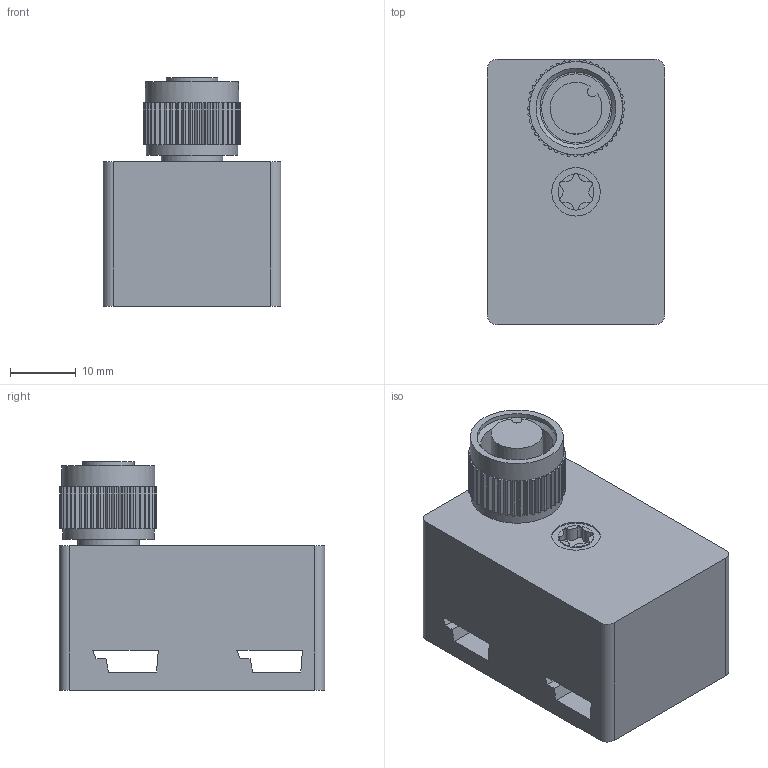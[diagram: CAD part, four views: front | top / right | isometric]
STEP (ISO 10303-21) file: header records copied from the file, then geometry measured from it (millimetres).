
FILE_DESCRIPTION( ( 'STEP AP203' ), '1' );
FILE_NAME( 'p:/temp/worker_64/temp/exporttempdir_204_417_qPMDw/format_0/E70586_old.stp', '2022-02-09T10:50:10', ( 'License CC BY-ND 4.0' ), ( 'CADENAS' ), ' ', 'PARTsolutions', ' ' );
FILE_SCHEMA( ( 'CONFIG_CONTROL_DESIGN' ) );
Length unit declared in the file: millimetre
Products named in the file (1): _E70586_old
Bounding box: 27.1 x 40.5 x 34.8 mm (x, y, z)
Volume: 23962.1 mm3; surface area: 7921.1 mm2
Topology: 1 solids, 1 shells, 331 faces, 787 edges, 466 vertices
Faces by surface type: plane 254, cylinder 76, cone 1
Full cylindrical faces by diameter (mm): 6 x1, 7.38 x1, 9.4 x1, 10.5 x1, 11 x1, 12.2 x1, 14 x1, 14.2 x1
Entity records: 9397 total; most frequent: DIRECTION 1735, CARTESIAN_POINT 1572, ORIENTED_EDGE 1552, EDGE_CURVE 776, AXIS2_PLACEMENT_3D 627, LINE 481, VECTOR 481, VERTEX_POINT 464
